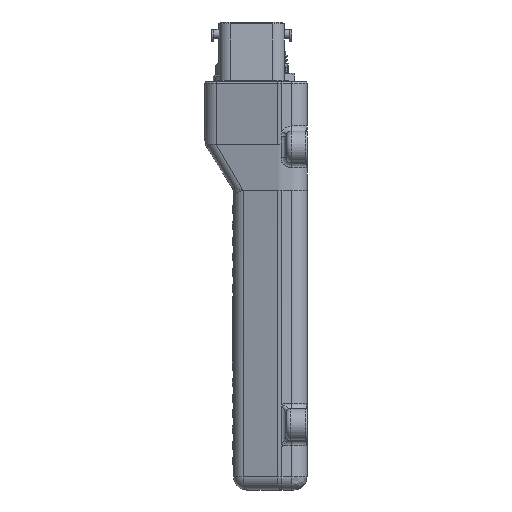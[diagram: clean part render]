
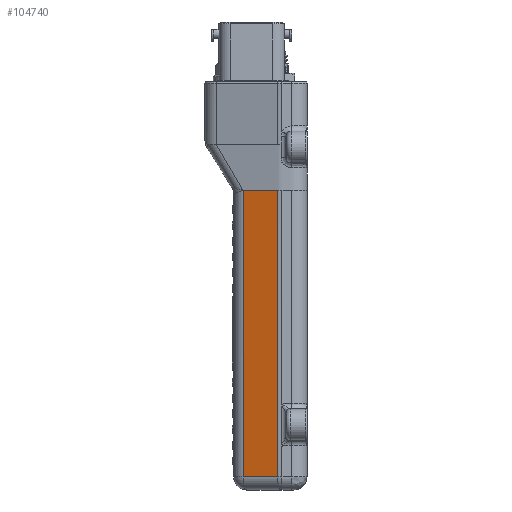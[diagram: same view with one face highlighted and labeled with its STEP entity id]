
A CAD part, left-side view. The second image highlights one B-rep face of the part: STEP entity #104740.
In plain terms, the highlighted planar face has unit normal (-0.958, 0.285, 0).
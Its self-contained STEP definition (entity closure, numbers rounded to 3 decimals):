
#4383=FACE_OUTER_BOUND('',#10306,.T.);
#10306=EDGE_LOOP('',(#69926,#69927,#69928,#69929));
#20243=LINE('',#153632,#31612);
#20249=LINE('',#154907,#31618);
#20250=LINE('',#154909,#31619);
#20251=LINE('',#154910,#31620);
#31612=VECTOR('',#121378,1.);
#31618=VECTOR('',#121412,1.);
#31619=VECTOR('',#121413,1.);
#31620=VECTOR('',#121414,1.);
#43030=VERTEX_POINT('',#153608);
#43034=VERTEX_POINT('',#153628);
#43040=VERTEX_POINT('',#153710);
#43054=VERTEX_POINT('',#154908);
#53606=EDGE_CURVE('',#43034,#43030,#20243,.F.);
#53632=EDGE_CURVE('',#43040,#43034,#20249,.T.);
#53633=EDGE_CURVE('',#43054,#43030,#20250,.T.);
#53634=EDGE_CURVE('',#43054,#43040,#20251,.T.);
#69926=ORIENTED_EDGE('',*,*,#53632,.T.);
#69927=ORIENTED_EDGE('',*,*,#53606,.T.);
#69928=ORIENTED_EDGE('',*,*,#53633,.F.);
#69929=ORIENTED_EDGE('',*,*,#53634,.T.);
#100930=PLANE('',#110955);
#104740=ADVANCED_FACE('',(#4383),#100930,.T.);
#110955=AXIS2_PLACEMENT_3D('',#154906,#121410,#121411);
#121378=DIRECTION('',(0.285,0.958,0.));
#121410=DIRECTION('center_axis',(-0.958,0.285,0.));
#121411=DIRECTION('ref_axis',(0.285,0.958,0.));
#121412=DIRECTION('',(0.,0.,-1.));
#121413=DIRECTION('',(0.,0.,-1.));
#121414=DIRECTION('',(0.285,0.958,0.));
#153608=CARTESIAN_POINT('',(104.796,33.641,-161.773));
#153628=CARTESIAN_POINT('',(108.711,46.793,-161.773));
#153632=CARTESIAN_POINT('',(104.796,33.641,-161.773));
#153710=CARTESIAN_POINT('',(108.711,46.793,-52.273));
#154906=CARTESIAN_POINT('Origin',(104.796,33.641,-52.273));
#154907=CARTESIAN_POINT('',(108.711,46.793,-52.273));
#154908=CARTESIAN_POINT('',(104.796,33.641,-52.273));
#154909=CARTESIAN_POINT('',(104.796,33.641,-52.273));
#154910=CARTESIAN_POINT('',(104.796,33.641,-52.273));
